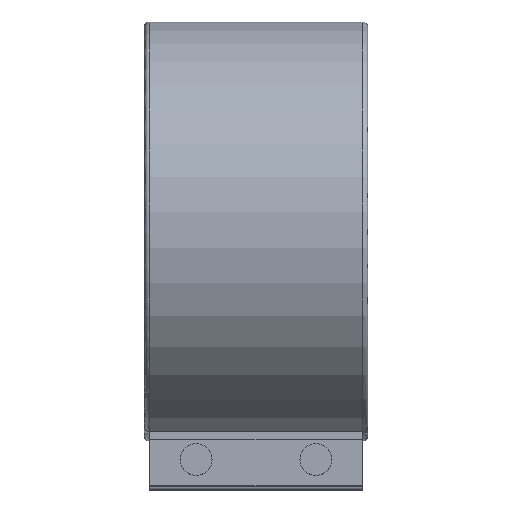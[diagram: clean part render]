
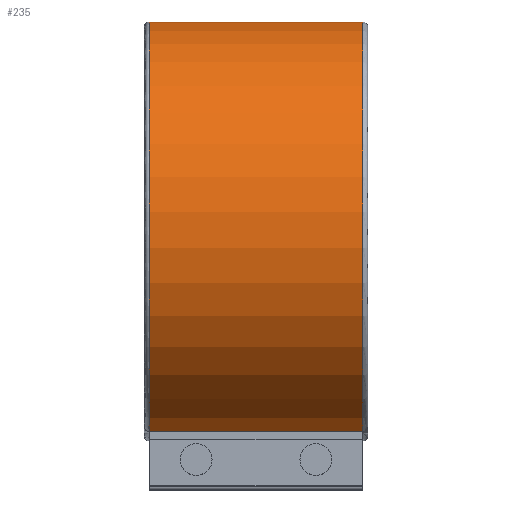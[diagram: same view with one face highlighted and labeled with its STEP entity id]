
A CAD part, top view. The second image highlights one B-rep face of the part: STEP entity #235.
In plain terms, the highlighted cylindrical face has radius 52.5 mm (diameter 105 mm), a partial arc.
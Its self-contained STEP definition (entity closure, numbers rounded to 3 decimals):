
#235 = ADVANCED_FACE( '', ( #553 ), #554, .T. );
#553 = FACE_OUTER_BOUND( '', #966, .T. );
#554 = CYLINDRICAL_SURFACE( '', #967, 52.5 );
#966 = EDGE_LOOP( '', ( #1620, #1621, #1622, #1623 ) );
#967 = AXIS2_PLACEMENT_3D( '', #1624, #1625, #1626 );
#1620 = ORIENTED_EDGE( '', *, *, #2457, .T. );
#1621 = ORIENTED_EDGE( '', *, *, #2308, .T. );
#1622 = ORIENTED_EDGE( '', *, *, #2458, .F. );
#1623 = ORIENTED_EDGE( '', *, *, #2366, .T. );
#1624 = CARTESIAN_POINT( '', ( 28., 0., 0. ) );
#1625 = DIRECTION( '', ( -1., 0., 0. ) );
#1626 = DIRECTION( '', ( 0., 0., -1. ) );
#2308 = EDGE_CURVE( '', #2755, #2660, #2756, .T. );
#2366 = EDGE_CURVE( '', #2851, #2852, #2853, .F. );
#2457 = EDGE_CURVE( '', #2852, #2755, #2993, .T. );
#2458 = EDGE_CURVE( '', #2851, #2660, #2994, .T. );
#2660 = VERTEX_POINT( '', #3261 );
#2755 = VERTEX_POINT( '', #3407 );
#2756 = LINE( '', #3408, #3409 );
#2851 = VERTEX_POINT( '', #3549 );
#2852 = VERTEX_POINT( '', #3550 );
#2853 = LINE( '', #3551, #3552 );
#2993 = CIRCLE( '', #3765, 52.5 );
#2994 = CIRCLE( '', #3766, 52.5 );
#3261 = CARTESIAN_POINT( '', ( 26.74, -50.082, 15.75 ) );
#3407 = CARTESIAN_POINT( '', ( -26.74, -50.082, 15.75 ) );
#3408 = CARTESIAN_POINT( '', ( 28., -50.082, 15.75 ) );
#3409 = VECTOR( '', #4113, 1000. );
#3549 = CARTESIAN_POINT( '', ( 26.74, -50.082, -15.75 ) );
#3550 = CARTESIAN_POINT( '', ( -26.74, -50.082, -15.75 ) );
#3551 = CARTESIAN_POINT( '', ( 28., -50.082, -15.75 ) );
#3552 = VECTOR( '', #4168, 1000. );
#3765 = AXIS2_PLACEMENT_3D( '', #4260, #4261, #4262 );
#3766 = AXIS2_PLACEMENT_3D( '', #4263, #4264, #4265 );
#4113 = DIRECTION( '', ( 1., 0., 0. ) );
#4168 = DIRECTION( '', ( 1., 0., 0. ) );
#4260 = CARTESIAN_POINT( '', ( -26.74, 0., 0. ) );
#4261 = DIRECTION( '', ( 1., 0., 0. ) );
#4262 = DIRECTION( '', ( 0., 0., -1. ) );
#4263 = CARTESIAN_POINT( '', ( 26.74, 0., 0. ) );
#4264 = DIRECTION( '', ( 1., 0., 0. ) );
#4265 = DIRECTION( '', ( 0., 0., -1. ) );
